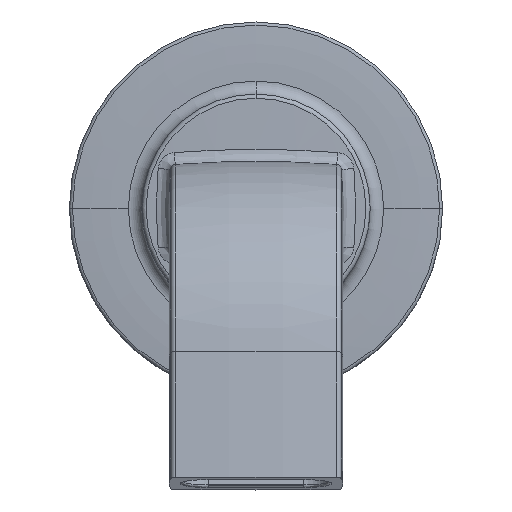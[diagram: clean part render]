
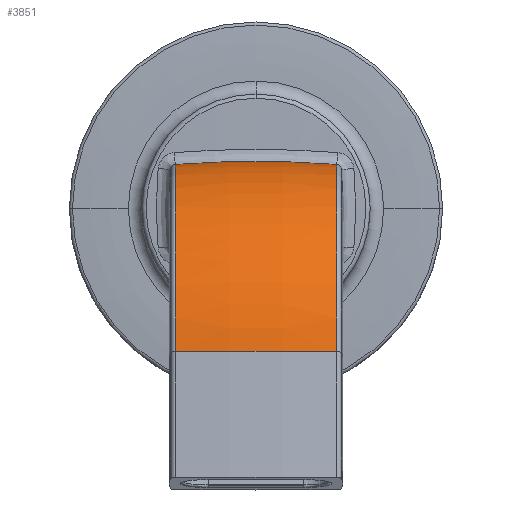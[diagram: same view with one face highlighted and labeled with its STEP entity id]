
A CAD part, top view. The second image highlights one B-rep face of the part: STEP entity #3851.
In plain terms, the highlighted toroidal (fillet/blend) face has major radius 188.719 mm and minor radius 238.506 mm.
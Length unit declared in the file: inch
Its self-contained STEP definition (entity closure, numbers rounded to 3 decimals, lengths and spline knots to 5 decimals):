
#137 = DIRECTION ( 'NONE',  ( -1., 0., 0. ) ) ;
#384 = DIRECTION ( 'NONE',  ( 0., 0., 1. ) ) ;
#783 = VERTEX_POINT ( 'NONE', #2773 ) ;
#1265 = CARTESIAN_POINT ( 'NONE',  ( 0., -2.58916, 1.54006 ) ) ;
#1521 = VERTEX_POINT ( 'NONE', #3641 ) ;
#1690 = TOROIDAL_SURFACE ( 'NONE', #8677, -7.42988, 9.39 ) ;
#2565 = CARTESIAN_POINT ( 'NONE',  ( 0., -1.55512, 8.89764 ) ) ;
#2756 = DIRECTION ( 'NONE',  ( 0., 0., 1. ) ) ;
#2773 = CARTESIAN_POINT ( 'NONE',  ( 0.71713, -1.28614, 10.81152 ) ) ;
#3641 = CARTESIAN_POINT ( 'NONE',  ( 0.71713, 0.37758, 8.89764 ) ) ;
#3851 = ADVANCED_FACE ( 'NONE', ( #4667 ), #1690, .T. ) ;
#4644 = CARTESIAN_POINT ( 'NONE',  ( 0.71713, -1.55512, 8.89764 ) ) ;
#4667 = FACE_OUTER_BOUND ( 'NONE', #7114, .T. ) ;
#4840 = VERTEX_POINT ( 'NONE', #6397 ) ;
#4852 = AXIS2_PLACEMENT_3D ( 'NONE', #10396, #2756, #8242 ) ;
#5316 = AXIS2_PLACEMENT_3D ( 'NONE', #5473, #9764, #8516 ) ;
#5473 = CARTESIAN_POINT ( 'NONE',  ( -0.71713, -1.55512, 8.89764 ) ) ;
#5693 = ORIENTED_EDGE ( 'NONE', *, *, #10308, .F. ) ;
#5749 = DIRECTION ( 'NONE',  ( 0., -0.99, 0.139 ) ) ;
#6397 = CARTESIAN_POINT ( 'NONE',  ( -0.71713, 0.37758, 8.89764 ) ) ;
#6458 = CIRCLE ( 'NONE', #7819, 9.39 ) ;
#7114 = EDGE_LOOP ( 'NONE', ( #5693, #11479, #10508, #10262 ) ) ;
#7819 = AXIS2_PLACEMENT_3D ( 'NONE', #1265, #5749, #137 ) ;
#8242 = DIRECTION ( 'NONE',  ( -1., 0., 0. ) ) ;
#8250 = VERTEX_POINT ( 'NONE', #12426 ) ;
#8516 = DIRECTION ( 'NONE',  ( 0., 0., -1. ) ) ;
#8540 = EDGE_CURVE ( 'NONE', #4840, #8250, #13375, .T. ) ;
#8677 = AXIS2_PLACEMENT_3D ( 'NONE', #2565, #10213, #384 ) ;
#8745 = AXIS2_PLACEMENT_3D ( 'NONE', #4644, #8945, #13209 ) ;
#8945 = DIRECTION ( 'NONE',  ( -1., 0., 0. ) ) ;
#8988 = EDGE_CURVE ( 'NONE', #1521, #4840, #9571, .T. ) ;
#9571 = CIRCLE ( 'NONE', #4852, 9.39 ) ;
#9764 = DIRECTION ( 'NONE',  ( 1., 0., 0. ) ) ;
#10213 = DIRECTION ( 'NONE',  ( 1., 0., 0. ) ) ;
#10262 = ORIENTED_EDGE ( 'NONE', *, *, #8540, .T. ) ;
#10308 = EDGE_CURVE ( 'NONE', #783, #8250, #6458, .T. ) ;
#10396 = CARTESIAN_POINT ( 'NONE',  ( 0., -8.985, 8.89764 ) ) ;
#10508 = ORIENTED_EDGE ( 'NONE', *, *, #8988, .T. ) ;
#11479 = ORIENTED_EDGE ( 'NONE', *, *, #12412, .T. ) ;
#11860 = CIRCLE ( 'NONE', #8745, 1.93269 ) ;
#12412 = EDGE_CURVE ( 'NONE', #783, #1521, #11860, .T. ) ;
#12426 = CARTESIAN_POINT ( 'NONE',  ( -0.71713, -1.28614, 10.81152 ) ) ;
#13209 = DIRECTION ( 'NONE',  ( 0., 0., 1. ) ) ;
#13375 = CIRCLE ( 'NONE', #5316, 1.93269 ) ;
